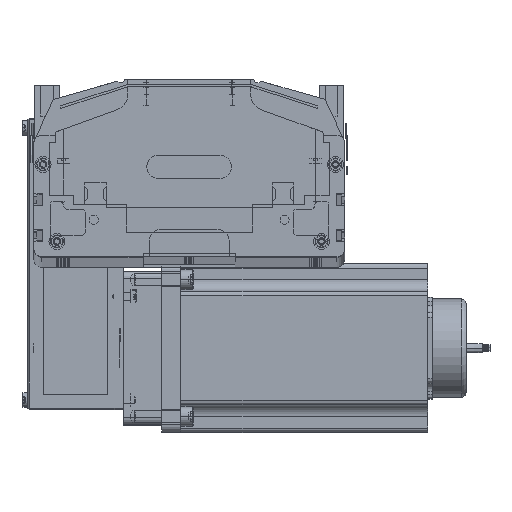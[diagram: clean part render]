
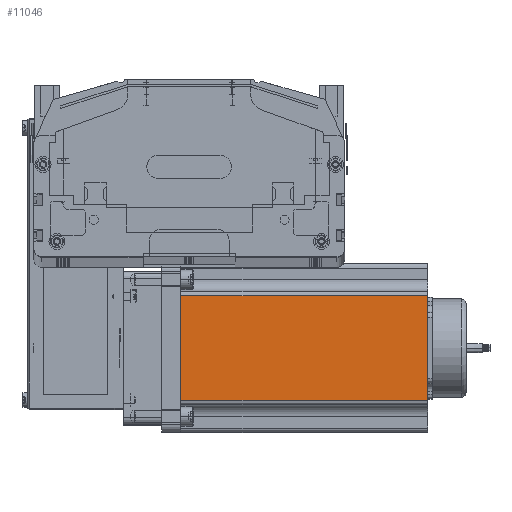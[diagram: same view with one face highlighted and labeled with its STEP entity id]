
A CAD part, top view. The second image highlights one B-rep face of the part: STEP entity #11046.
In plain terms, the highlighted planar face has unit normal (0, 0, 1) as drawn and (0, -1, 0) by its records, which use the part's own axes.
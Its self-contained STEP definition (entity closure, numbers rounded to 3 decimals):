
#10543 = EDGE_LOOP ( 'NONE', ( #10802, #10801, #11049, #11042 ) ) ;
#10551 = VERTEX_POINT ( 'NONE', #95766 ) ;
#10801 = ORIENTED_EDGE ( 'NONE', *, *, #10925, .T. ) ;
#10802 = ORIENTED_EDGE ( 'NONE', *, *, #10955, .T. ) ;
#10804 = VERTEX_POINT ( 'NONE', #14013 ) ;
#10806 = VERTEX_POINT ( 'NONE', #14011 ) ;
#10925 = EDGE_CURVE ( 'NONE', #10551, #10806, #14217, .T. ) ;
#10955 = EDGE_CURVE ( 'NONE', #10804, #10551, #14398, .T. ) ;
#10958 = EDGE_CURVE ( 'NONE', #11051, #10804, #14384, .T. ) ;
#11042 = ORIENTED_EDGE ( 'NONE', *, *, #10958, .T. ) ;
#11046 = ADVANCED_FACE ( 'NONE', ( #14587 ), #14592, .F. ) ;
#11049 = ORIENTED_EDGE ( 'NONE', *, *, #11050, .F. ) ;
#11050 = EDGE_CURVE ( 'NONE', #11051, #10806, #14564, .T. ) ;
#11051 = VERTEX_POINT ( 'NONE', #14566 ) ;
#14011 = CARTESIAN_POINT ( 'NONE',  ( 88.952, 0., 160.5 ) ) ;
#14013 = CARTESIAN_POINT ( 'NONE',  ( 21.048, 0., 0. ) ) ;
#14217 = LINE ( 'NONE', #14327, #14325 ) ;
#14324 = DIRECTION ( 'NONE',  ( 0., 0., 1. ) ) ;
#14325 = VECTOR ( 'NONE', #14324, 1000. ) ;
#14327 = CARTESIAN_POINT ( 'NONE',  ( 88.952, 0., 160.5 ) ) ;
#14379 = DIRECTION ( 'NONE',  ( 0., 0., -1. ) ) ;
#14380 = VECTOR ( 'NONE', #14379, 1000. ) ;
#14382 = CARTESIAN_POINT ( 'NONE',  ( 21.048, 0., 160.5 ) ) ;
#14384 = LINE ( 'NONE', #14382, #14380 ) ;
#14393 = DIRECTION ( 'NONE',  ( 1., 0., 0. ) ) ;
#14394 = VECTOR ( 'NONE', #14393, 1000. ) ;
#14396 = CARTESIAN_POINT ( 'NONE',  ( 0., 0., 0. ) ) ;
#14398 = LINE ( 'NONE', #14396, #14394 ) ;
#14494 = AXIS2_PLACEMENT_3D ( 'NONE', #14579, #14578, #14577 ) ;
#14560 = DIRECTION ( 'NONE',  ( 1., 0., 0. ) ) ;
#14562 = VECTOR ( 'NONE', #14560, 1000. ) ;
#14563 = CARTESIAN_POINT ( 'NONE',  ( 0., 0., 160.5 ) ) ;
#14564 = LINE ( 'NONE', #14563, #14562 ) ;
#14566 = CARTESIAN_POINT ( 'NONE',  ( 21.048, 0., 160.5 ) ) ;
#14577 = DIRECTION ( 'NONE',  ( 0., 0., 1. ) ) ;
#14578 = DIRECTION ( 'NONE',  ( 0., 1., 0. ) ) ;
#14579 = CARTESIAN_POINT ( 'NONE',  ( 0., 0., 160.5 ) ) ;
#14587 = FACE_OUTER_BOUND ( 'NONE', #10543, .T. ) ;
#14592 = PLANE ( 'NONE',  #14494 ) ;
#95766 = CARTESIAN_POINT ( 'NONE',  ( 88.952, 0., 0. ) ) ;
